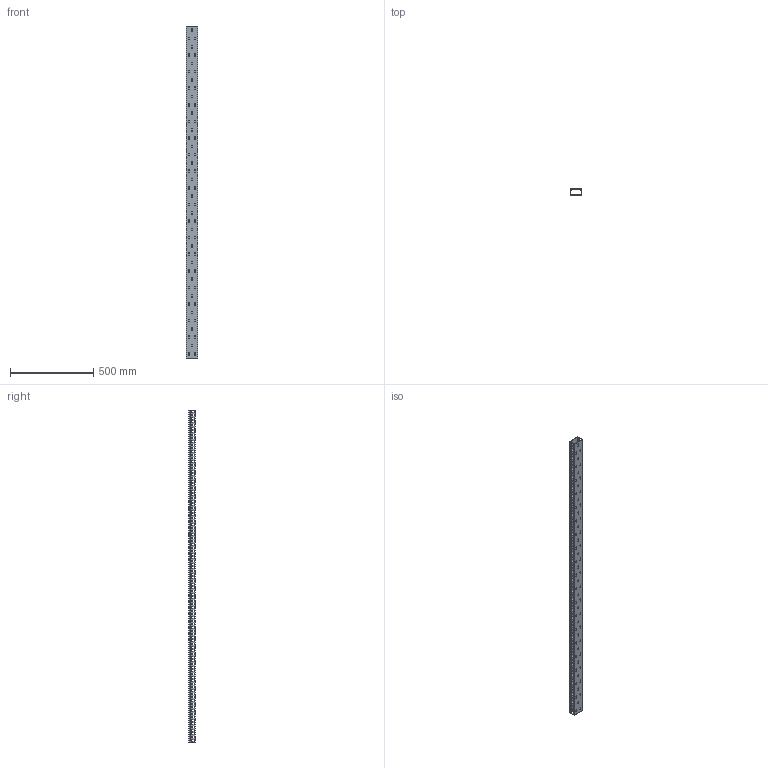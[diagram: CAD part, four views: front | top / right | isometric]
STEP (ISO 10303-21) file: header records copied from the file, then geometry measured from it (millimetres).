
FILE_DESCRIPTION (( 'STEP AP214' ), '1' );
FILE_NAME ('KD-74-20-T.STEP', '2020-02-19T00:51:40', ( '' ), ( '' ), 'SwSTEP 2.0', 'SolidWorks 2018', '' );
FILE_SCHEMA (( 'AUTOMOTIVE_DESIGN' ));
Length unit declared in the file: millimetre
Products named in the file (3): KD-74-20-cover; KD-74-20-T-body; KD-74-20-T
Assembly tree (2 placements, depth 2):
  KD-74-20-T
    KD-74-20-T-body
    KD-74-20-cover
Bounding box: 70 x 40.17 x 2000 mm (x, y, z)
Volume: 757086.8 mm3; surface area: 955231.1 mm2
Topology: 2 solids, 2 shells, 2963 faces, 10077 edges, 6718 vertices
Faces by surface type: plane 1746, cylinder 1217
Entity records: 111275 total; most frequent: ORIENTED_EDGE 20154, CARTESIAN_POINT 19763, DIRECTION 19247, EDGE_CURVE 10077, VECTOR 6843, LINE 6843, VERTEX_POINT 6718, AXIS2_PLACEMENT_3D 6202
